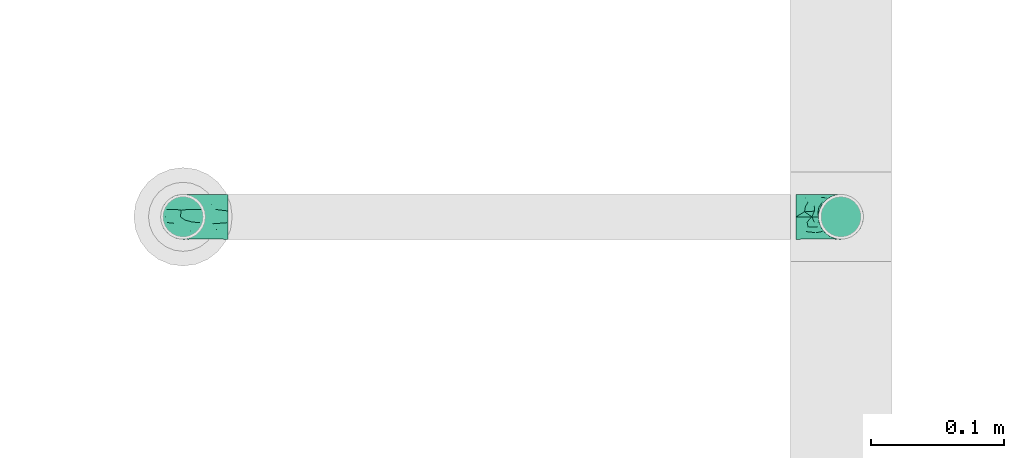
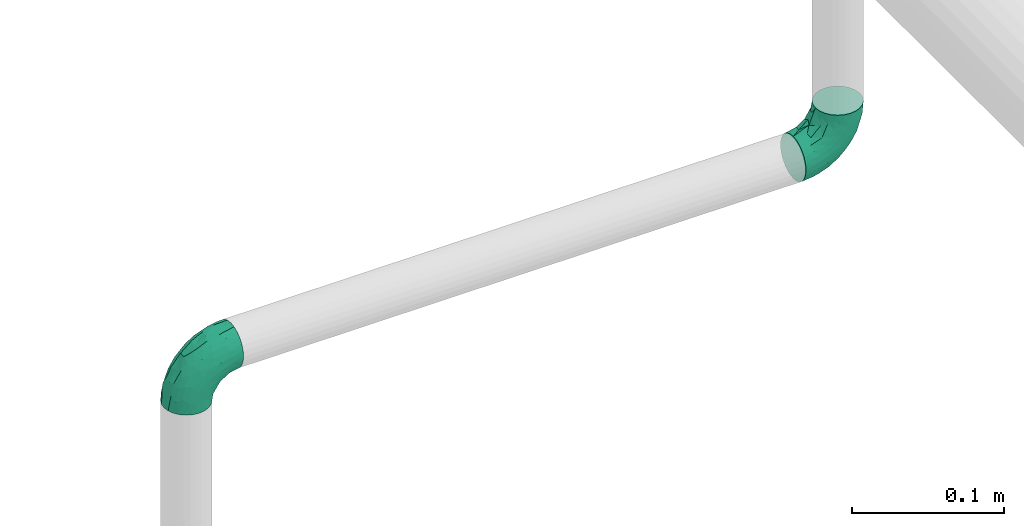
# One storey, part 81 of 95: 2 flow fittings.
"""IFC2X3 building model written with IfcOpenShell, lengths in millimetres."""

from ifc_helpers import new_model, entity, si_unit, converted_unit, derived_unit, direction, frame, origin_with_axes, place, context, subcontext, project, spatial, open_shell, surface_model, source, transform, mapped, type_object, element, save


model = new_model("IFC2X3")

# Units and contexts
model_context = context("Model", 3, precision=0.01, world=frame((0.0, 4.29681676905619e-09, 0.0)), true_north=direction((4.01073788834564e-13, 1.0)))
plan_context = context("Plan", 3, precision=0.01, world=frame((0.0, 4.29681676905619e-09, 0.0)), true_north=direction((4.01073788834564e-13, 1.0)))
body_context = subcontext(model_context, "Body", "Model", "MODEL_VIEW")
ifc_project = project(units=[converted_unit("PLANEANGLEUNIT", "DEGREE", entity("IfcPositiveLengthMeasure", 0.0174532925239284), si_unit("PLANEANGLEUNIT", "RADIAN"), dimensions=[0, 0, 0, 0, 0, 0, 0]), si_unit("AREAUNIT", "SQUARE_METRE"), si_unit("LENGTHUNIT", "METRE", prefix="MILLI"), si_unit("MASSUNIT", "GRAM", prefix="KILO"), si_unit("POWERUNIT", "WATT"), si_unit("PRESSUREUNIT", "PASCAL"), si_unit("FORCEUNIT", "NEWTON", prefix="KILO"), si_unit("ELECTRICVOLTAGEUNIT", "VOLT"), si_unit("ELECTRICCURRENTUNIT", "AMPERE"), si_unit("THERMODYNAMICTEMPERATUREUNIT", "DEGREE_CELSIUS"), si_unit("TIMEUNIT", "SECOND"), si_unit("VOLUMEUNIT", "CUBIC_METRE"), derived_unit("LINEARVELOCITYUNIT", [(si_unit("LENGTHUNIT", "METRE"), 1), (si_unit("TIMEUNIT", "SECOND"), -1)]), derived_unit("VOLUMETRICFLOWRATEUNIT", [(si_unit("VOLUMEUNIT", "CUBIC_METRE"), 1), (si_unit("TIMEUNIT", "SECOND"), -1)]), derived_unit("THERMALTRANSMITTANCEUNIT", [(si_unit("POWERUNIT", "WATT"), 1), (si_unit("THERMODYNAMICTEMPERATUREUNIT", "KELVIN"), -1), (si_unit("AREAUNIT", "SQUARE_METRE"), -1)]), derived_unit("SOUNDPRESSUREUNIT", [(si_unit("PRESSUREUNIT", "PASCAL"), 1)])], contexts=[model_context, plan_context])

# Site, building, storey
site_placement = place(None, frame((0.0, -4.29681676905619e-09, 0.0), z_axis=(0.0, 0.0, 1.0), x_axis=(1.0, 0.0, 0.0)))
site = spatial("IfcSite", under=ifc_project, at=site_placement, CompositionType="ELEMENT")
building_placement = place(site_placement, frame((0.0, 4.29681676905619e-09, 0.0), z_axis=(0.0, 0.0, 1.0), x_axis=(1.0, 0.0, 0.0)))
building = spatial("IfcBuilding", under=site, at=building_placement, Name="mc-building", CompositionType="ELEMENT")
storey_placement = place(building_placement, frame((0.0, 0.0, 210900.0), z_axis=(0.0, 0.0, 1.0), x_axis=(1.0, 0.0, 0.0)))
storey = spatial("IfcBuildingStorey", under=building, at=storey_placement, Name="Nivå F", CompositionType="ELEMENT", Elevation=210900.0)

# Flow fittings
pipe_fitting_type = type_object("IfcPipeFittingType", Name="magi_pipe_fe_elbow_short_001", PredefinedType="BEND")
shared_shape = source(origin_with_axes(), body_context, "Body", "SurfaceModel", [
    surface_model("IfcShellBasedSurfaceModel", [(-33.8, 16.32415, -4.37404), (-33.8, 16.32415, 4.37404), (-33.8, 16.9, 0.0), (-33.8, -11.9501, -11.9501), (-33.8, 0.0, -16.9), (-33.8, -4.37404, -16.32415), (-33.8, -8.45, -14.63583), (-33.8, -14.63583, -8.45), (-33.8, -16.32415, -4.37404), (-33.8, 14.63583, -8.45), (-33.8, 8.45, 14.63583), (-33.8, 8.45, -14.63583), (-33.8, 11.9501, -11.9501), (-33.8, 4.37404, -16.32415), (-33.8, -11.9501, 11.9501), (-33.8, -16.32415, 4.37404), (-33.8, -14.63583, 8.45), (-33.8, -8.45, 14.63583), (-33.8, -4.37404, 16.32415), (-33.8, 11.9501, 11.9501), (-33.8, 14.63583, 8.45), (-33.8, 0.0, 16.9), (-33.8, 4.37404, 16.32415), (-33.8, -16.9, 0.0), (-4.37404, -33.8, -16.32415), (0.0, -33.8, -16.9), (-11.9501, -33.8, -11.9501), (-8.45, -33.8, -14.63583), (-16.32415, -33.8, -4.37404), (-14.63583, -33.8, -8.45), (14.63583, -33.8, -8.45), (16.32415, -33.8, -4.37404), (8.45, -33.8, 14.63583), (11.9501, -33.8, -11.9501), (8.45, -33.8, -14.63583), (4.37404, -33.8, -16.32415), (16.9, -33.8, 0.0), (16.32415, -33.8, 4.37404), (-11.9501, -33.8, 11.9501), (-14.63583, -33.8, 8.45), (-16.32415, -33.8, 4.37404), (-4.37404, -33.8, 16.32415), (-8.45, -33.8, 14.63583), (14.63583, -33.8, 8.45), (11.9501, -33.8, 11.9501), (4.37404, -33.8, 16.32415), (0.0, -33.8, 16.9), (-16.9, -33.8, 0.0), (-22.19287, 9.75018, 12.59315), (-24.79389, 13.12945, 9.48721), (-24.09897, 14.97035, 0.0), (-22.46095, 14.75051, 5.27077), (-14.93934, 10.76256, 8.5297), (13.04069, -14.39795, 0.0), (11.9251, -13.23888, 4.33236), (14.75051, -22.46094, 5.27077), (4.10169, -13.0571, 14.04018), (9.75018, -22.19287, 12.59315), (7.71387, -13.68847, 11.55891), (-24.84007, 6.39063, 15.2048), (-23.66549, -2.59054, 16.87119), (-25.81779, 2.23879, 16.61097), (-29.58514, -15.86957, 7.00283), (-24.21253, -17.66365, 7.72657), (-26.50418, -14.06512, 11.08152), (-14.39795, 13.04069, 0.0), (-13.23888, 11.9251, 4.33236), (-6.17382, 7.5455, 0.0), (-17.81434, -18.87373, 11.97104), (-2.31622, -25.28002, 16.85849), (-6.30846, -29.15138, 15.82987), (-29.23923, -10.23435, 13.77053), (-5.74484, 4.04709, 10.4122), (-0.28326, -0.34872, 10.09509), (-1.45439, 2.85688, 7.61475), (-1.72649, -9.1306, 15.53089), (-8.39727, -3.10034, 15.7812), (-4.41137, -11.31918, 16.59407), (-17.39909, -24.75344, 7.64977), (-28.14518, -17.29657, 4.25857), (-26.19233, -20.0512, 0.0), (-26.05147, -6.6281, 15.96447), (-10.06312, -7.38516, 16.81295), (-12.51807, -12.51807, 16.48937), (-5.87354, -16.61944, 16.86968), (-13.0571, 4.10169, 14.04018), (-3.01882, -3.01882, 13.81718), (-16.82553, 0.15166, 16.38038), (13.12945, -24.79389, 9.48721), (10.76256, -14.93934, 8.5297), (6.39063, -24.84007, 15.2048), (2.23879, -25.81779, 16.61097), (-13.68847, 7.71387, 11.55891), (14.97035, -24.09897, 0.0), (-7.30894, -22.89991, 16.09489), (-12.78295, -18.26924, 15.06066), (-10.67958, -26.17414, 14.008), (-18.04944, -15.16501, 14.04434), (-13.88562, -22.45231, 12.93244), (-21.84989, -21.84989, 0.0), (-23.11658, -20.08178, 4.02986), (-18.55817, -25.48277, 3.93065), (-13.95142, -26.94732, 11.03289), (-16.58335, -4.14122, 16.89279), (-18.57098, -7.23906, 16.59756), (-17.96666, -11.46709, 15.63151), (-9.84453, -17.54304, 16.18938), (0.15166, -16.82553, 16.38038), (-23.27207, -11.47201, 14.23154), (3.84842, -5.86994, 10.70473), (-8.0212, 7.54413, 7.93275), (5.13203, -3.01004, 5.90201), (1.00345, 2.19508, 4.57414), (8.70457, -7.04947, 3.99182), (5.24161, -1.7543, 2.53265), (-20.0512, -26.19233, 0.0), (8.4852, -8.76699, 7.09296), (-4.55488, 6.72064, 4.90681), (2.05031, 2.05031, 0.0), (7.5455, -6.17382, 0.0), (-26.75399, -2.1369, -16.845), (-14.61995, -24.73803, -11.27736), (-28.45274, 13.45335, -9.81895), (-26.00469, -6.63555, -15.96645), (-23.06726, -20.04573, -4.26202), (-6.7902, 0.2828, -13.8478), (-14.67501, 0.21081, -16.07388), (-13.80647, 4.26506, -14.17873), (-26.72048, -14.00837, -11.05776), (-24.53586, -11.08096, -14.13417), (6.66249, -28.54238, -15.38093), (5.83237, -21.40218, -15.03047), (10.0967, -24.44989, -12.75976), (-20.38182, -15.48705, -12.74596), (9.7522, -12.89279, -8.66343), (12.54494, -15.67504, -5.54878), (12.53268, -21.23441, -9.15363), (-15.61907, -15.61906, -14.83879), (-12.03528, -20.66498, -14.67665), (-15.65186, -19.64213, -13.01327), (-24.65452, 15.12934, -5.50955), (-25.56551, 15.26206, 0.0), (15.12934, -24.65452, -5.50955), (13.45335, -28.45274, -9.81895), (-15.67504, 12.54494, -5.54878), (-7.35442, 8.31014, -5.65563), (-24.44989, 10.0967, -12.75976), (-5.13869, 2.37198, -11.53565), (-5.70658, 5.33066, -8.89288), (0.16522, -0.41303, -9.71728), (-21.23441, 12.53268, -9.15363), (3.49291, -14.42772, -14.76381), (0.21081, -14.67501, -16.07388), (0.71146, -7.93863, -14.09382), (-24.89911, 2.13088, -16.591), (-28.54238, 6.66249, -15.38093), (-18.44386, 7.71663, -13.26957), (2.13088, -24.89911, -16.591), (-28.64342, -17.44413, -2.89318), (1.70017, 1.28722, -5.09504), (-17.69055, -27.4263, -3.76405), (-16.57067, -26.81947, -7.36596), (-12.89279, 9.7522, -8.66343), (-5.96611, -5.96611, -15.95814), (-20.53709, -20.09345, -8.28985), (-2.1369, -26.75399, -16.845), (-6.89872, -24.58781, -16.02578), (-10.60739, -26.53157, -13.98044), (-21.40218, 5.83237, -15.03047), (5.58056, -5.95325, -8.79455), (6.89393, -12.61842, -11.82233), (2.93192, -5.89627, -11.55917), (-3.99512, -18.61798, -16.89635), (8.31014, -7.35442, -5.65563), (-9.99983, -16.02119, -16.39699), (-9.1383, -9.86148, -16.89041), (-16.68576, -9.78031, -16.34199), (-27.01915, -16.61158, -7.12979), (15.26206, -25.56551, 0.0), (-18.61798, -3.99512, -16.89635), (-19.37495, -27.82495, 0.0), (-12.61842, 6.89393, -11.82233), (-18.84705, -19.14018, -10.96545)], [open_shell([[[0, 1, 2]], [[3, 4, 5]], [[3, 5, 6]], [[3, 7, 8]], [[4, 3, 9]], [[10, 0, 3]], [[11, 9, 12]], [[11, 13, 4]], [[4, 9, 11]], [[0, 9, 3]], [[14, 3, 8]], [[15, 16, 8]], [[16, 14, 8]], [[14, 17, 18]], [[14, 10, 3]], [[10, 14, 18]], [[1, 19, 20]], [[1, 0, 19]], [[10, 21, 22]], [[0, 10, 19]], [[18, 21, 10]], [[15, 8, 23]], [[24, 25, 26]], [[27, 24, 26]], [[28, 29, 26]], [[30, 26, 25]], [[26, 31, 32]], [[33, 30, 34]], [[25, 35, 34]], [[34, 30, 25]], [[26, 30, 31]], [[36, 37, 31]], [[28, 26, 38]], [[28, 39, 40]], [[28, 38, 39]], [[41, 42, 38]], [[38, 26, 32]], [[41, 38, 32]], [[43, 44, 37]], [[44, 31, 37]], [[45, 46, 32]], [[44, 32, 31]], [[32, 46, 41]], [[28, 40, 47]], [[48, 49, 19]], [[50, 2, 1]], [[51, 49, 52]], [[53, 54, 55]], [[20, 19, 49]], [[20, 51, 1]], [[56, 57, 58]], [[19, 10, 48]], [[10, 59, 48]], [[60, 61, 21]], [[62, 63, 64]], [[65, 66, 67]], [[32, 44, 57]], [[63, 68, 64]], [[69, 70, 41]], [[14, 71, 17]], [[21, 61, 22]], [[72, 73, 74]], [[75, 76, 77]], [[16, 64, 14]], [[78, 40, 39]], [[79, 23, 80]], [[16, 15, 62]], [[18, 60, 21]], [[17, 81, 18]], [[82, 83, 84]], [[85, 86, 72]], [[87, 85, 59]], [[57, 88, 89]], [[45, 32, 90]], [[37, 55, 43]], [[91, 46, 45]], [[89, 55, 54]], [[55, 88, 43]], [[48, 85, 92]], [[44, 43, 88]], [[22, 59, 10]], [[93, 53, 55]], [[55, 37, 93]], [[65, 51, 66]], [[69, 84, 94]], [[94, 95, 96]], [[95, 97, 98]], [[99, 100, 80]], [[96, 38, 42]], [[100, 99, 101]], [[63, 78, 68]], [[70, 42, 41]], [[79, 15, 23]], [[70, 94, 96]], [[100, 101, 78]], [[96, 102, 38]], [[41, 46, 69]], [[102, 96, 98]], [[51, 50, 1]], [[32, 57, 90]], [[56, 90, 57]], [[60, 18, 81]], [[82, 103, 104]], [[104, 81, 105]], [[102, 39, 38]], [[83, 95, 106]], [[84, 106, 94]], [[107, 69, 91]], [[14, 64, 71]], [[97, 108, 64]], [[48, 59, 85]], [[50, 51, 65]], [[87, 59, 61]], [[52, 48, 92]], [[76, 86, 85]], [[45, 90, 91]], [[93, 37, 36]], [[56, 75, 107]], [[90, 56, 107]], [[109, 86, 56]], [[92, 72, 110]], [[110, 72, 74]], [[51, 52, 66]], [[111, 112, 74]], [[111, 113, 114]], [[57, 89, 58]], [[20, 49, 51]], [[52, 49, 48]], [[44, 88, 57]], [[89, 88, 55]], [[60, 81, 104]], [[108, 81, 71]], [[79, 62, 15]], [[100, 78, 63]], [[101, 115, 47]], [[99, 115, 101]], [[102, 78, 39]], [[78, 102, 68]], [[96, 95, 98]], [[108, 97, 105]], [[83, 82, 104]], [[84, 69, 107]], [[87, 82, 76]], [[77, 82, 84]], [[46, 91, 69]], [[107, 91, 90]], [[22, 61, 59]], [[87, 61, 60]], [[72, 86, 73]], [[116, 111, 109]], [[103, 60, 104]], [[83, 104, 105]], [[83, 105, 95]], [[108, 105, 81]], [[105, 97, 95]], [[68, 97, 64]], [[103, 87, 60]], [[103, 82, 87]], [[87, 76, 85]], [[86, 76, 75]], [[86, 75, 56]], [[107, 75, 77]], [[107, 77, 84]], [[82, 77, 76]], [[17, 71, 81]], [[108, 71, 64]], [[42, 70, 96]], [[94, 70, 69]], [[16, 62, 64]], [[100, 63, 79]], [[62, 79, 63]], [[80, 100, 79]], [[117, 67, 66]], [[117, 66, 110]], [[116, 113, 111]], [[67, 117, 118]], [[52, 92, 110]], [[114, 112, 111]], [[54, 53, 119]], [[92, 85, 72]], [[58, 109, 56]], [[109, 58, 116]], [[52, 110, 66]], [[117, 110, 74]], [[117, 74, 112]], [[109, 111, 73]], [[112, 118, 117]], [[118, 112, 114]], [[114, 119, 118]], [[54, 119, 113]], [[114, 113, 119]], [[89, 54, 116]], [[113, 116, 54]], [[58, 89, 116]], [[74, 73, 111]], [[109, 73, 86]], [[101, 40, 78]], [[40, 101, 47]], [[98, 68, 102]], [[97, 68, 98]], [[83, 106, 84]], [[106, 95, 94]], [[4, 120, 5]], [[121, 26, 29]], [[9, 122, 12]], [[5, 123, 6]], [[80, 124, 99]], [[125, 126, 127]], [[128, 3, 129]], [[130, 131, 132]], [[133, 128, 129]], [[134, 135, 136]], [[137, 138, 139]], [[3, 6, 129]], [[140, 141, 65]], [[142, 143, 136]], [[9, 0, 140]], [[144, 67, 145]], [[11, 12, 146]], [[147, 148, 149]], [[150, 140, 144]], [[151, 152, 153]], [[4, 13, 154]], [[146, 155, 11]], [[156, 146, 150]], [[13, 11, 155]], [[136, 135, 142]], [[25, 157, 35]], [[158, 80, 23]], [[145, 159, 148]], [[28, 160, 161]], [[145, 162, 144]], [[153, 152, 163]], [[161, 29, 28]], [[161, 164, 121]], [[132, 33, 34]], [[24, 165, 25]], [[166, 165, 24]], [[30, 33, 143]], [[167, 27, 26]], [[164, 160, 124]], [[130, 35, 157]], [[168, 154, 155]], [[129, 6, 123]], [[169, 170, 171]], [[152, 157, 172]], [[27, 166, 24]], [[34, 35, 130]], [[33, 132, 143]], [[126, 154, 168]], [[173, 135, 134]], [[137, 139, 133]], [[128, 7, 3]], [[132, 131, 170]], [[142, 31, 30]], [[174, 175, 172]], [[129, 123, 176]], [[8, 177, 158]], [[119, 53, 135]], [[166, 27, 167]], [[172, 166, 174]], [[138, 167, 139]], [[9, 140, 122]], [[0, 2, 141]], [[178, 36, 31]], [[136, 132, 170]], [[131, 157, 152]], [[172, 157, 165]], [[153, 170, 151]], [[175, 163, 152]], [[156, 127, 168]], [[150, 146, 122]], [[4, 154, 120]], [[126, 175, 179]], [[154, 126, 179]], [[125, 163, 126]], [[150, 144, 162]], [[140, 0, 141]], [[142, 178, 31]], [[178, 142, 53]], [[7, 128, 177]], [[137, 133, 129]], [[137, 129, 176]], [[179, 123, 120]], [[29, 161, 121]], [[180, 99, 160]], [[138, 174, 166]], [[167, 26, 121]], [[28, 47, 160]], [[158, 124, 80]], [[177, 164, 124]], [[99, 124, 160]], [[170, 169, 134]], [[153, 163, 125]], [[159, 169, 149]], [[162, 145, 148]], [[171, 153, 125]], [[127, 181, 125]], [[164, 177, 128]], [[177, 8, 7]], [[145, 67, 159]], [[144, 140, 65]], [[135, 53, 142]], [[173, 119, 135]], [[5, 120, 123]], [[179, 120, 154]], [[25, 165, 157]], [[172, 165, 166]], [[175, 152, 172]], [[174, 137, 176]], [[163, 175, 126]], [[179, 175, 176]], [[174, 176, 175]], [[179, 176, 123]], [[162, 181, 150]], [[181, 147, 125]], [[162, 148, 181]], [[149, 148, 159]], [[173, 134, 169]], [[134, 136, 170]], [[173, 169, 159]], [[171, 149, 169]], [[147, 149, 171]], [[171, 170, 153]], [[128, 182, 164]], [[139, 121, 182]], [[148, 147, 181]], [[125, 147, 171]], [[133, 139, 182]], [[121, 139, 167]], [[167, 138, 166]], [[138, 137, 174]], [[133, 182, 128]], [[164, 182, 121]], [[164, 161, 160]], [[180, 160, 47]], [[124, 158, 177]], [[8, 158, 23]], [[34, 130, 132]], [[131, 130, 157]], [[30, 143, 142]], [[136, 143, 132]], [[13, 155, 154]], [[168, 155, 146]], [[12, 122, 146]], [[150, 122, 140]], [[151, 131, 152]], [[118, 119, 159]], [[67, 144, 65]], [[131, 151, 170]], [[173, 159, 119]], [[67, 118, 159]], [[181, 127, 156]], [[168, 127, 126]], [[181, 156, 150]], [[146, 156, 168]]])]),
])
for number, where, z_axis, x_axis, name in (
    (1, (534107.98071, 461000.75899, 4100.0), (0.0, -1.0, 0.0), (0.0, 0.0, 1.0), "magi_pipe_fe_elbow_short_001"),
    (2, (534602.7875, 461000.75899, 4100.0), (0.0, -1.0, 0.0), (0.0, 0.0, -1.0), "magi_pipe_fe_elbow_short_001"),
):
    element("IfcFlowFitting", number, at=place(storey_placement, frame(where, z_axis=z_axis, x_axis=x_axis)), inside=storey, type_object=pipe_fitting_type, Name=name, context=body_context, shape_type="MappedRepresentation", body=[
        mapped(shared_shape, transform((0.0, 0.0, 0.0), scale=1.0)),
    ])

save(model, "model.ifc")
